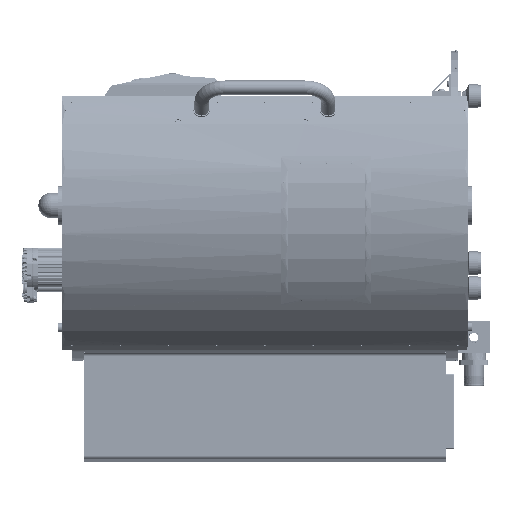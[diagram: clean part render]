
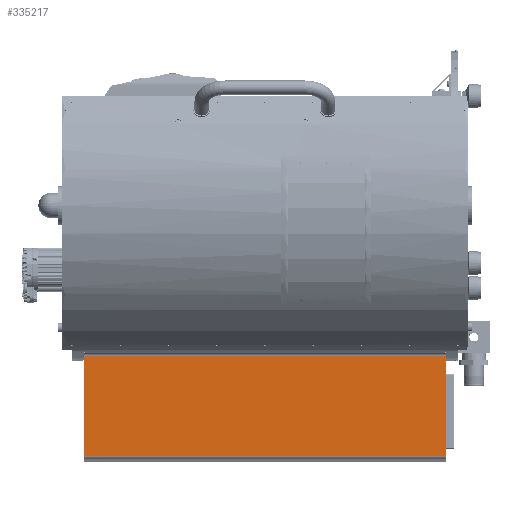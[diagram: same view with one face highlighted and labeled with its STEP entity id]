
A CAD part, left-side view. The second image highlights one B-rep face of the part: STEP entity #335217.
In plain terms, the highlighted planar face has unit normal (-1, 0, 0) as drawn and (1, 0, 0) by its records, which use the part's own axes.
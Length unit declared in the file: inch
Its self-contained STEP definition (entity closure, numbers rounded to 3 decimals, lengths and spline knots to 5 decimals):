
#2370 = DIRECTION ( 'NONE',  ( 0., -1., 0. ) ) ;
#4304 = CARTESIAN_POINT ( 'NONE',  ( 3.75, 14., 11.71071 ) ) ;
#8182 = AXIS2_PLACEMENT_3D ( 'NONE', #4304, #38284, #275020 ) ;
#31388 = CARTESIAN_POINT ( 'NONE',  ( 3.75, -14.058, 11.71071 ) ) ;
#34434 = ORIENTED_EDGE ( 'NONE', *, *, #155534, .T. ) ;
#38284 = DIRECTION ( 'NONE',  ( -1., 0., 0. ) ) ;
#44949 = EDGE_CURVE ( 'NONE', #232982, #204466, #262407, .T. ) ;
#70415 = ORIENTED_EDGE ( 'NONE', *, *, #335423, .F. ) ;
#75611 = CARTESIAN_POINT ( 'NONE',  ( 3.75, 14.058, 11.71071 ) ) ;
#79445 = CARTESIAN_POINT ( 'NONE',  ( 3.75, -14.058, 11.71071 ) ) ;
#99892 = VECTOR ( 'NONE', #353392, 39.37008 ) ;
#113836 = CARTESIAN_POINT ( 'NONE',  ( 3.75, 14.058, 19.4374 ) ) ;
#114510 = DIRECTION ( 'NONE',  ( 0., -1., 0. ) ) ;
#144736 = VECTOR ( 'NONE', #2370, 39.37008 ) ;
#155534 = EDGE_CURVE ( 'NONE', #369065, #248212, #425600, .T. ) ;
#176943 = LINE ( 'NONE', #113836, #436623 ) ;
#204466 = VERTEX_POINT ( 'NONE', #31388 ) ;
#232982 = VERTEX_POINT ( 'NONE', #75611 ) ;
#247804 = CARTESIAN_POINT ( 'NONE',  ( 3.75, 14., 11.71071 ) ) ;
#248212 = VERTEX_POINT ( 'NONE', #410582 ) ;
#262407 = LINE ( 'NONE', #247804, #431904 ) ;
#264316 = ORIENTED_EDGE ( 'NONE', *, *, #44949, .F. ) ;
#271707 = CARTESIAN_POINT ( 'NONE',  ( 3.75, 14., 19.4374 ) ) ;
#275020 = DIRECTION ( 'NONE',  ( 0., 0., 1. ) ) ;
#291068 = EDGE_LOOP ( 'NONE', ( #34434, #70415, #264316, #350405 ) ) ;
#335217 = ADVANCED_FACE ( 'NONE', ( #338586 ), #409691, .F. ) ;
#335423 = EDGE_CURVE ( 'NONE', #204466, #248212, #370146, .T. ) ;
#336572 = CARTESIAN_POINT ( 'NONE',  ( 3.75, 14.058, 19.4374 ) ) ;
#338586 = FACE_OUTER_BOUND ( 'NONE', #291068, .T. ) ;
#345906 = EDGE_CURVE ( 'NONE', #369065, #232982, #176943, .T. ) ;
#350405 = ORIENTED_EDGE ( 'NONE', *, *, #345906, .F. ) ;
#353392 = DIRECTION ( 'NONE',  ( 0., 0., 1. ) ) ;
#369065 = VERTEX_POINT ( 'NONE', #336572 ) ;
#370146 = LINE ( 'NONE', #79445, #99892 ) ;
#384781 = DIRECTION ( 'NONE',  ( 0., 0., -1. ) ) ;
#409691 = PLANE ( 'NONE',  #8182 ) ;
#410582 = CARTESIAN_POINT ( 'NONE',  ( 3.75, -14.058, 19.4374 ) ) ;
#425600 = LINE ( 'NONE', #271707, #144736 ) ;
#431904 = VECTOR ( 'NONE', #114510, 39.37008 ) ;
#436623 = VECTOR ( 'NONE', #384781, 39.37008 ) ;
